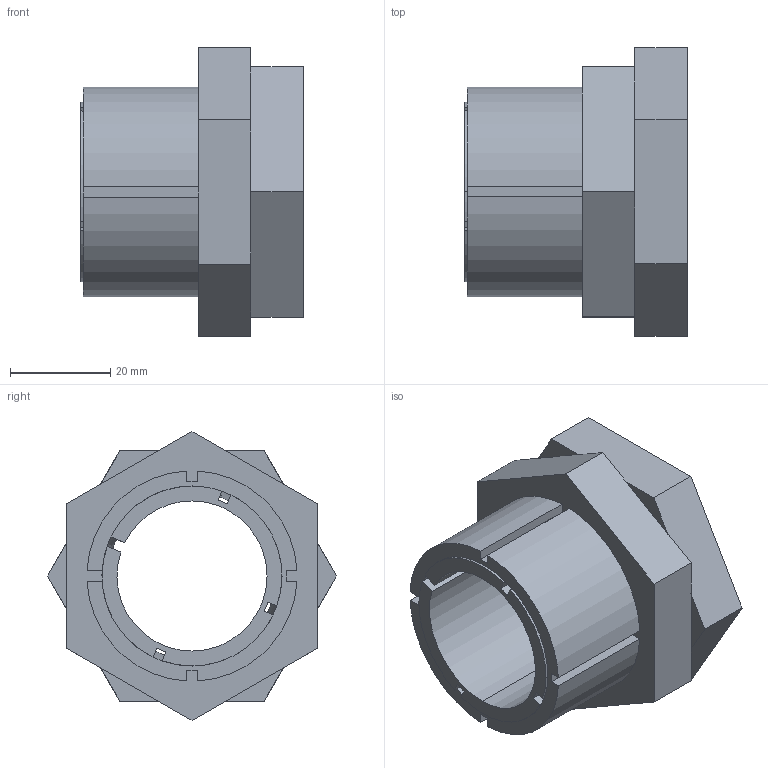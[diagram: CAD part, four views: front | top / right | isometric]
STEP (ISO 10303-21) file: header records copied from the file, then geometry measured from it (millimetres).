
FILE_DESCRIPTION (( 'STEP AP203' ), '1' );
FILE_NAME ('KBS 59 - 30 x 42.STEP', '2015-07-07T21:06:19', ( '' ), ( '' ), 'SwSTEP 2.0', 'SolidWorks 2010', '' );
FILE_SCHEMA (( 'CONFIG_CONTROL_DESIGN' ));
Length unit declared in the file: millimetre
Products named in the file (1): KBS 59 - 30 x 42
Bounding box: 44.5 x 57.73 x 57.73 mm (x, y, z)
Volume: 44950.5 mm3; surface area: 25572 mm2
Topology: 3 solids, 3 shells, 78 faces, 204 edges, 132 vertices
Faces by surface type: plane 56, cylinder 14, cone 8
Entity records: 2469 total; most frequent: CARTESIAN_POINT 451, ORIENTED_EDGE 408, DIRECTION 396, EDGE_CURVE 204, VECTOR 150, LINE 150, VERTEX_POINT 132, AXIS2_PLACEMENT_3D 123
